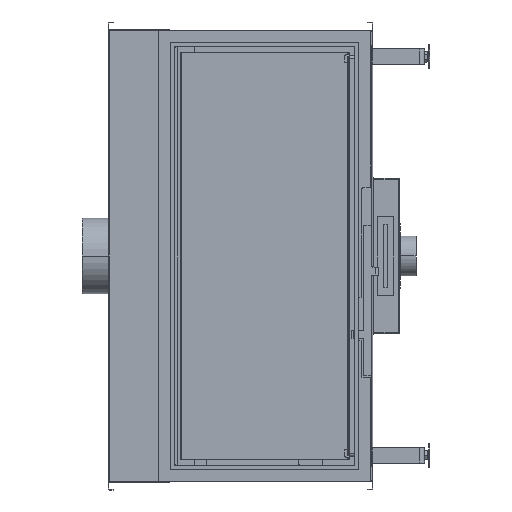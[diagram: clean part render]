
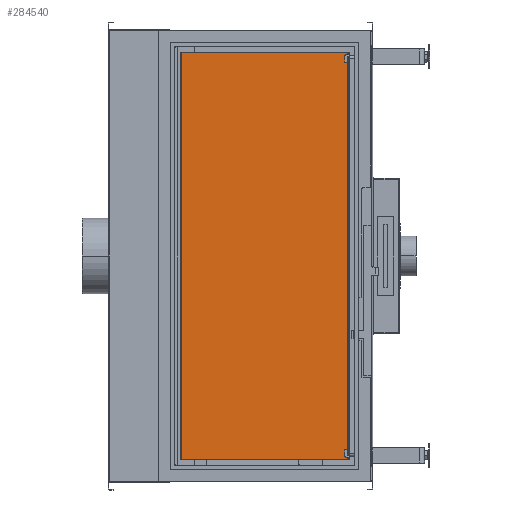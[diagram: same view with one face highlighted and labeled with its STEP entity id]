
A CAD part, left-side view. The second image highlights one B-rep face of the part: STEP entity #284540.
In plain terms, the highlighted planar face has unit normal (-1, 0, 0) as drawn and (1, 0, 0) by its records, which use the part's own axes.
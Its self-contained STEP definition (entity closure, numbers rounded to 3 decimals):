
#283850=CARTESIAN_POINT('',(-14.636,10.,
-63.446));
#283860=VERTEX_POINT('',#283850);
#283940=CARTESIAN_POINT('',(-14.636,-408.,
-63.446));
#283950=VERTEX_POINT('',#283940);
#283980=CARTESIAN_POINT('',(-14.636,-199.,
-63.446));
#283990=DIRECTION('',(-0.,1.,0.));
#284000=VECTOR('',#283990,1.);
#284010=LINE('',#283980,#284000);
#284020=EDGE_CURVE('',#283950,#283860,#284010,.T.);
#284120=CARTESIAN_POINT('',(-14.636,-408.,
97.054));
#284130=DIRECTION('',(0.,0.,-1.));
#284140=VECTOR('',#284130,1.);
#284150=LINE('',#284120,#284140);
#284160=CARTESIAN_POINT('',(-14.636,-408.,
957.554));
#284170=VERTEX_POINT('',#284160);
#284180=EDGE_CURVE('',#284170,#283950,#284150,.T.);
#284310=CARTESIAN_POINT('',(-14.636,-349.,
547.054));
#284320=DIRECTION('',(1.,0.,0.));
#284330=DIRECTION('',(0.,0.,-1.));
#284340=AXIS2_PLACEMENT_3D('',#284310,#284320,#284330);
#284350=PLANE('',#284340);
#284360=CARTESIAN_POINT('',(-14.636,-199.,
957.554));
#284370=DIRECTION('',(-0.,1.,0.));
#284380=VECTOR('',#284370,1.);
#284390=LINE('',#284360,#284380);
#284400=CARTESIAN_POINT('',(-14.636,10.,
957.554));
#284410=VERTEX_POINT('',#284400);
#284420=EDGE_CURVE('',#284170,#284410,#284390,.T.);
#284430=ORIENTED_EDGE('',*,*,#284420,.F.);
#284440=CARTESIAN_POINT('',(-14.636,10.,
97.054));
#284450=DIRECTION('',(0.,0.,1.));
#284460=VECTOR('',#284450,1.);
#284470=LINE('',#284440,#284460);
#284480=EDGE_CURVE('',#283860,#284410,#284470,.T.);
#284490=ORIENTED_EDGE('',*,*,#284480,.T.);
#284500=ORIENTED_EDGE('',*,*,#284020,.T.);
#284510=ORIENTED_EDGE('',*,*,#284180,.T.);
#284520=EDGE_LOOP('',(#284510,#284500,#284490,#284430));
#284530=FACE_OUTER_BOUND('',#284520,.T.);
#284540=ADVANCED_FACE('',(#284530),#284350,.T.);
